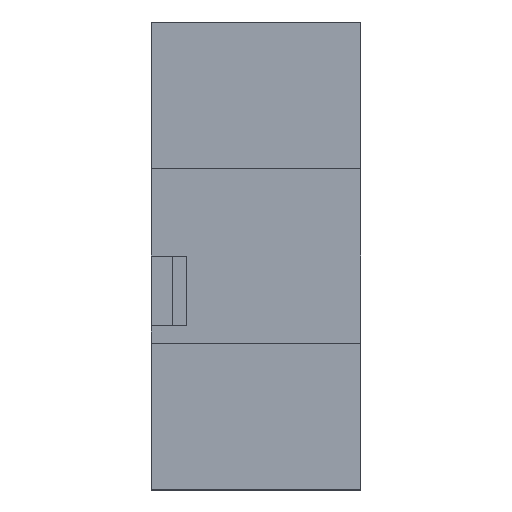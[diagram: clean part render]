
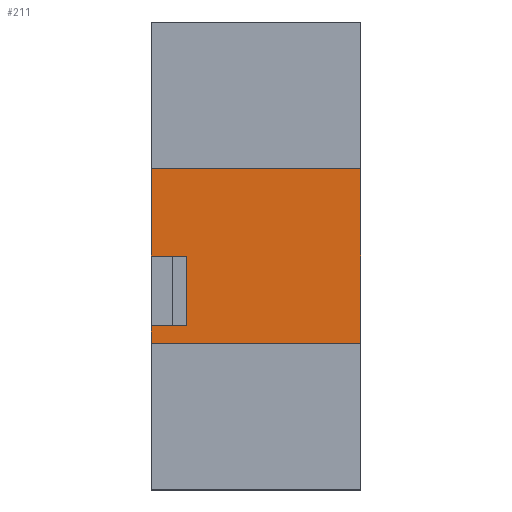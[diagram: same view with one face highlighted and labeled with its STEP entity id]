
A CAD part, left-side view. The second image highlights one B-rep face of the part: STEP entity #211.
In plain terms, the highlighted planar face has unit normal (-1, 0, 0) as drawn and (0, 1, 0) by its records, which use the part's own axes.
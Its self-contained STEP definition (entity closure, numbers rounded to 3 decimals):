
#2 = VERTEX_POINT ( 'NONE', #267 ) ;
#3 = EDGE_CURVE ( 'NONE', #2, #4, #266, .T. ) ;
#4 = VERTEX_POINT ( 'NONE', #262 ) ;
#50 = EDGE_CURVE ( 'NONE', #120, #193, #452, .T. ) ;
#113 = EDGE_CURVE ( 'NONE', #114, #193, #531, .T. ) ;
#114 = VERTEX_POINT ( 'NONE', #527 ) ;
#117 = VERTEX_POINT ( 'NONE', #520 ) ;
#119 = EDGE_CURVE ( 'NONE', #117, #120, #585, .T. ) ;
#120 = VERTEX_POINT ( 'NONE', #581 ) ;
#193 = VERTEX_POINT ( 'NONE', #652 ) ;
#211 = ADVANCED_FACE ( 'NONE', ( #700 ), #699, .F. ) ;
#212 = EDGE_LOOP ( 'NONE', ( #213, #217, #219, #220, #221, #222, #224, #225 ) ) ;
#213 = ORIENTED_EDGE ( 'NONE', *, *, #214, .F. ) ;
#214 = EDGE_CURVE ( 'NONE', #215, #216, #694, .T. ) ;
#215 = VERTEX_POINT ( 'NONE', #690 ) ;
#216 = VERTEX_POINT ( 'NONE', #689 ) ;
#217 = ORIENTED_EDGE ( 'NONE', *, *, #218, .T. ) ;
#218 = EDGE_CURVE ( 'NONE', #215, #114, #688, .T. ) ;
#219 = ORIENTED_EDGE ( 'NONE', *, *, #113, .T. ) ;
#220 = ORIENTED_EDGE ( 'NONE', *, *, #50, .F. ) ;
#221 = ORIENTED_EDGE ( 'NONE', *, *, #119, .F. ) ;
#222 = ORIENTED_EDGE ( 'NONE', *, *, #223, .T. ) ;
#223 = EDGE_CURVE ( 'NONE', #117, #2, #684, .T. ) ;
#224 = ORIENTED_EDGE ( 'NONE', *, *, #3, .T. ) ;
#225 = ORIENTED_EDGE ( 'NONE', *, *, #226, .F. ) ;
#226 = EDGE_CURVE ( 'NONE', #216, #4, #748, .T. ) ;
#262 = CARTESIAN_POINT ( 'NONE',  ( 3., 10.5, 0. ) ) ;
#263 = DIRECTION ( 'NONE',  ( 0., 0., -1. ) ) ;
#264 = VECTOR ( 'NONE', #263, 1000. ) ;
#265 = CARTESIAN_POINT ( 'NONE',  ( 3., 10.5, 0. ) ) ;
#266 = LINE ( 'NONE', #265, #264 ) ;
#267 = CARTESIAN_POINT ( 'NONE',  ( 3., 10.5, 2.5 ) ) ;
#366 = DIRECTION ( 'NONE',  ( 1., 0., 0. ) ) ;
#367 = VECTOR ( 'NONE', #366, 1000. ) ;
#449 = DIRECTION ( 'NONE',  ( 1., 0., 0. ) ) ;
#450 = VECTOR ( 'NONE', #449, 1000. ) ;
#451 = CARTESIAN_POINT ( 'NONE',  ( -3., 10.5, -2.5 ) ) ;
#452 = LINE ( 'NONE', #451, #450 ) ;
#520 = CARTESIAN_POINT ( 'NONE',  ( -3., 10.5, 2.5 ) ) ;
#527 = CARTESIAN_POINT ( 'NONE',  ( 3., 10.5, -2. ) ) ;
#528 = DIRECTION ( 'NONE',  ( 0., 0., -1. ) ) ;
#529 = VECTOR ( 'NONE', #528, 1000. ) ;
#530 = CARTESIAN_POINT ( 'NONE',  ( 3., 10.5, 0. ) ) ;
#531 = LINE ( 'NONE', #530, #529 ) ;
#581 = CARTESIAN_POINT ( 'NONE',  ( -3., 10.5, -2.5 ) ) ;
#582 = DIRECTION ( 'NONE',  ( 0., 0., -1. ) ) ;
#583 = VECTOR ( 'NONE', #582, 1000. ) ;
#584 = CARTESIAN_POINT ( 'NONE',  ( -3., 10.5, 0. ) ) ;
#585 = LINE ( 'NONE', #584, #583 ) ;
#652 = CARTESIAN_POINT ( 'NONE',  ( 3., 10.5, -2.5 ) ) ;
#683 = CARTESIAN_POINT ( 'NONE',  ( -3., 10.5, 2.5 ) ) ;
#684 = LINE ( 'NONE', #683, #367 ) ;
#685 = DIRECTION ( 'NONE',  ( 1., 0., 0. ) ) ;
#686 = VECTOR ( 'NONE', #685, 1000. ) ;
#687 = CARTESIAN_POINT ( 'NONE',  ( 2.4, 10.5, -2. ) ) ;
#688 = LINE ( 'NONE', #687, #686 ) ;
#689 = CARTESIAN_POINT ( 'NONE',  ( 2., 10.5, 0. ) ) ;
#690 = CARTESIAN_POINT ( 'NONE',  ( 2., 10.5, -2. ) ) ;
#691 = DIRECTION ( 'NONE',  ( 0., 0., 1. ) ) ;
#692 = VECTOR ( 'NONE', #691, 1000. ) ;
#693 = CARTESIAN_POINT ( 'NONE',  ( 2., 10.5, -2. ) ) ;
#694 = LINE ( 'NONE', #693, #692 ) ;
#695 = DIRECTION ( 'NONE',  ( 0., 0., -1. ) ) ;
#696 = DIRECTION ( 'NONE',  ( 0., -1., 0. ) ) ;
#697 = CARTESIAN_POINT ( 'NONE',  ( -3., 10.5, 0. ) ) ;
#698 = AXIS2_PLACEMENT_3D ( 'NONE', #697, #696, #695 ) ;
#699 = PLANE ( 'NONE',  #698 ) ;
#700 = FACE_OUTER_BOUND ( 'NONE', #212, .T. ) ;
#745 = DIRECTION ( 'NONE',  ( 1., 0., 0. ) ) ;
#746 = VECTOR ( 'NONE', #745, 1000. ) ;
#747 = CARTESIAN_POINT ( 'NONE',  ( 2.4, 10.5, 0. ) ) ;
#748 = LINE ( 'NONE', #747, #746 ) ;
